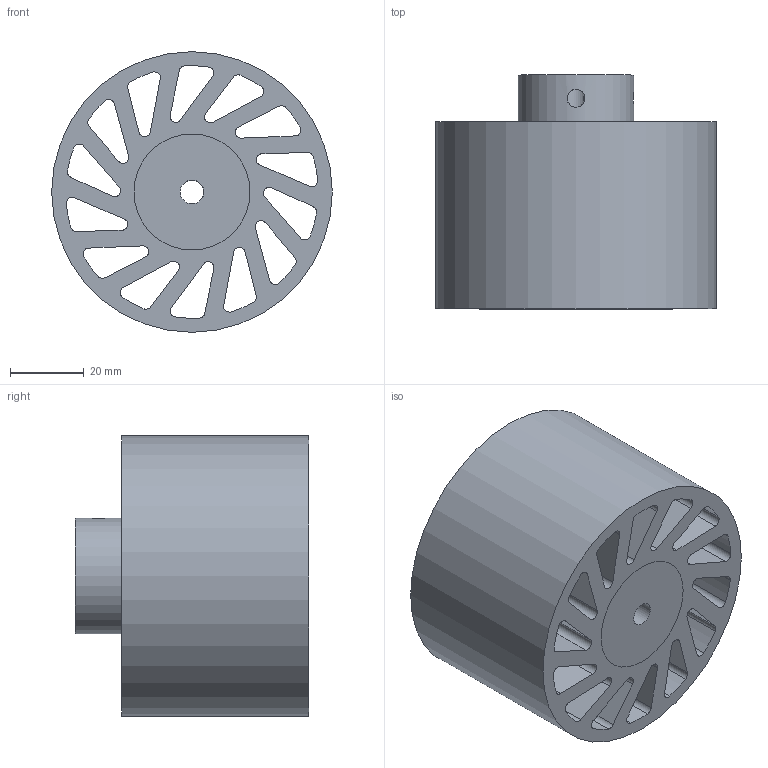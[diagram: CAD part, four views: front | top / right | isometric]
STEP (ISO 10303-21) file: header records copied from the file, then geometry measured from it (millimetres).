
FILE_DESCRIPTION(/* description */ (''),/* implementation_level */ '2;1');
FILE_NAME(/* name */ 'NCW-690-DUR-CLR.stp',/* time_stamp */ '2023-02-01T16:39:22-06:00',/* author */ ('AG'),/* organization */ ('Meridian Laboratory'),/* preprocessor_version */ 'ST-DEVELOPER v18.1',/* originating_system */ 'Autodesk Inventor 2022',/* authorisation */ '');
FILE_SCHEMA (('AUTOMOTIVE_DESIGN { 1 0 10303 214 3 1 1 }'));
Length unit declared in the file: inch
Products named in the file (1): NCW-640-DUR-CLR
Bounding box: 76.2 x 63.5 x 76.2 mm (x, y, z)
Volume: 168404.3 mm3; surface area: 62083.2 mm2
Topology: 2 solids, 2 shells, 94 faces, 277 edges, 186 vertices
Faces by surface type: cylinder 62, plane 32
Full cylindrical faces by diameter (mm): 4.826 x2, 6.363 x1, 31.496 x2, 76.2 x1
Entity records: 3549 total; most frequent: CARTESIAN_POINT 708, DIRECTION 580, ORIENTED_EDGE 554, EDGE_CURVE 277, AXIS2_PLACEMENT_3D 217, VERTEX_POINT 186, LINE 146, VECTOR 146
